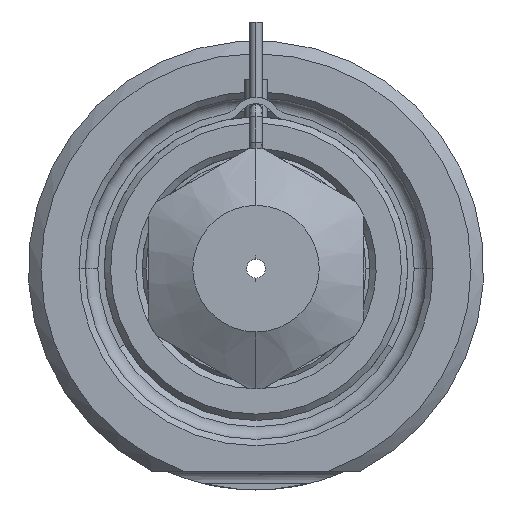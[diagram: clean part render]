
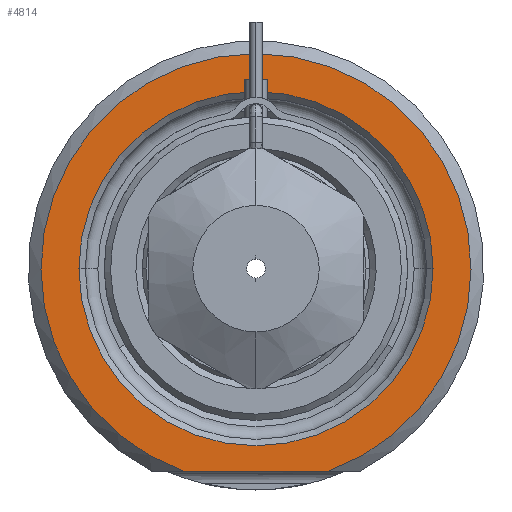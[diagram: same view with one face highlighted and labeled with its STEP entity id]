
A CAD part, front view. The second image highlights one B-rep face of the part: STEP entity #4814.
In plain terms, the highlighted planar face has unit normal (0, -1, 0).
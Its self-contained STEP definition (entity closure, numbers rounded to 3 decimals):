
#1476=DIRECTION('',(1.,0.,0.));
#1477=VECTOR('',#1476,11.489);
#1478=CARTESIAN_POINT('',(-5.745,0.,-16.));
#1479=LINE('',#1478,#1477);
#1480=CARTESIAN_POINT('',(0.,0.,0.));
#1481=DIRECTION('',(0.,1.,0.));
#1482=DIRECTION('',(-1.,0.,0.));
#1483=AXIS2_PLACEMENT_3D('',#1480,#1481,#1482);
#1485=CARTESIAN_POINT('',(0.,0.,0.));
#1486=DIRECTION('',(0.,1.,0.));
#1487=DIRECTION('',(1.,0.,0.));
#1488=AXIS2_PLACEMENT_3D('',#1485,#1486,#1487);
#1592=CARTESIAN_POINT('',(0.,0.,0.));
#1593=DIRECTION('',(0.,-1.,0.));
#1594=DIRECTION('',(0.338,0.,-0.941));
#1595=AXIS2_PLACEMENT_3D('',#1592,#1593,#1594);
#2553=CARTESIAN_POINT('',(-14.,0.,0.));
#2554=CARTESIAN_POINT('',(14.,0.,0.));
#2555=VERTEX_POINT('',#2553);
#2556=VERTEX_POINT('',#2554);
#2603=CARTESIAN_POINT('',(-5.745,0.,-16.));
#2604=CARTESIAN_POINT('',(5.745,0.,-16.));
#2605=VERTEX_POINT('',#2603);
#2606=VERTEX_POINT('',#2604);
#4798=CARTESIAN_POINT('',(0.,0.,0.));
#4799=DIRECTION('',(0.,-1.,0.));
#4800=DIRECTION('',(1.,0.,0.));
#4801=AXIS2_PLACEMENT_3D('',#4798,#4799,#4800);
#4802=PLANE('',#4801);
#4804=ORIENTED_EDGE('',*,*,#4803,.F.);
#4806=ORIENTED_EDGE('',*,*,#4805,.F.);
#4807=EDGE_LOOP('',(#4804,#4806));
#4808=FACE_OUTER_BOUND('',#4807,.F.);
#4810=ORIENTED_EDGE('',*,*,#4809,.F.);
#4811=ORIENTED_EDGE('',*,*,#4788,.F.);
#4812=EDGE_LOOP('',(#4810,#4811));
#4813=FACE_BOUND('',#4812,.F.);
#4814=ADVANCED_FACE('',(#4808,#4813),#4802,.T.);
#1484=CIRCLE('',#1483,14.);
#1489=CIRCLE('',#1488,14.);
#1596=CIRCLE('',#1595,17.);
#4788=EDGE_CURVE('',#2556,#2555,#1489,.T.);
#4803=EDGE_CURVE('',#2605,#2606,#1479,.T.);
#4805=EDGE_CURVE('',#2606,#2605,#1596,.T.);
#4809=EDGE_CURVE('',#2555,#2556,#1484,.T.);
